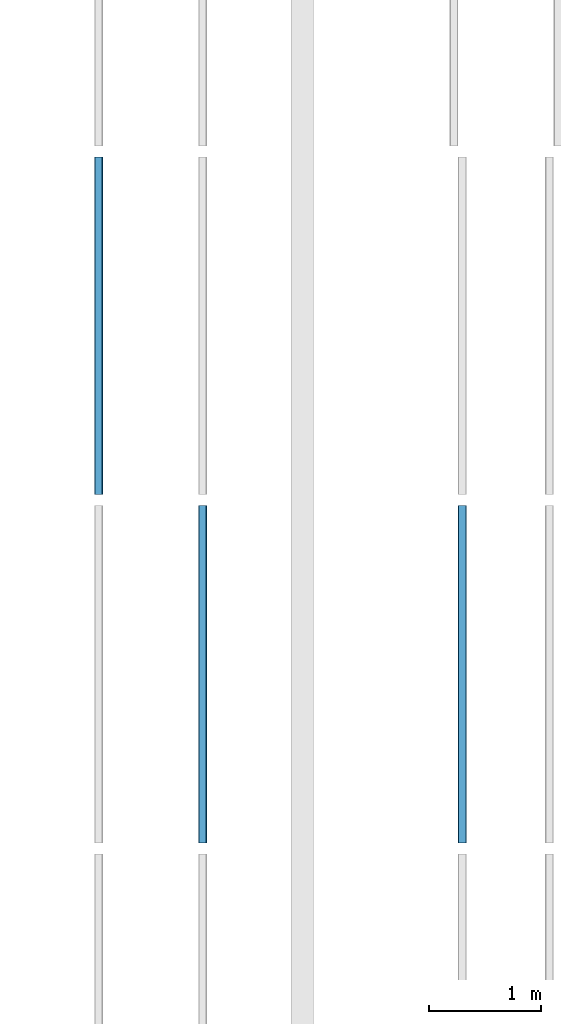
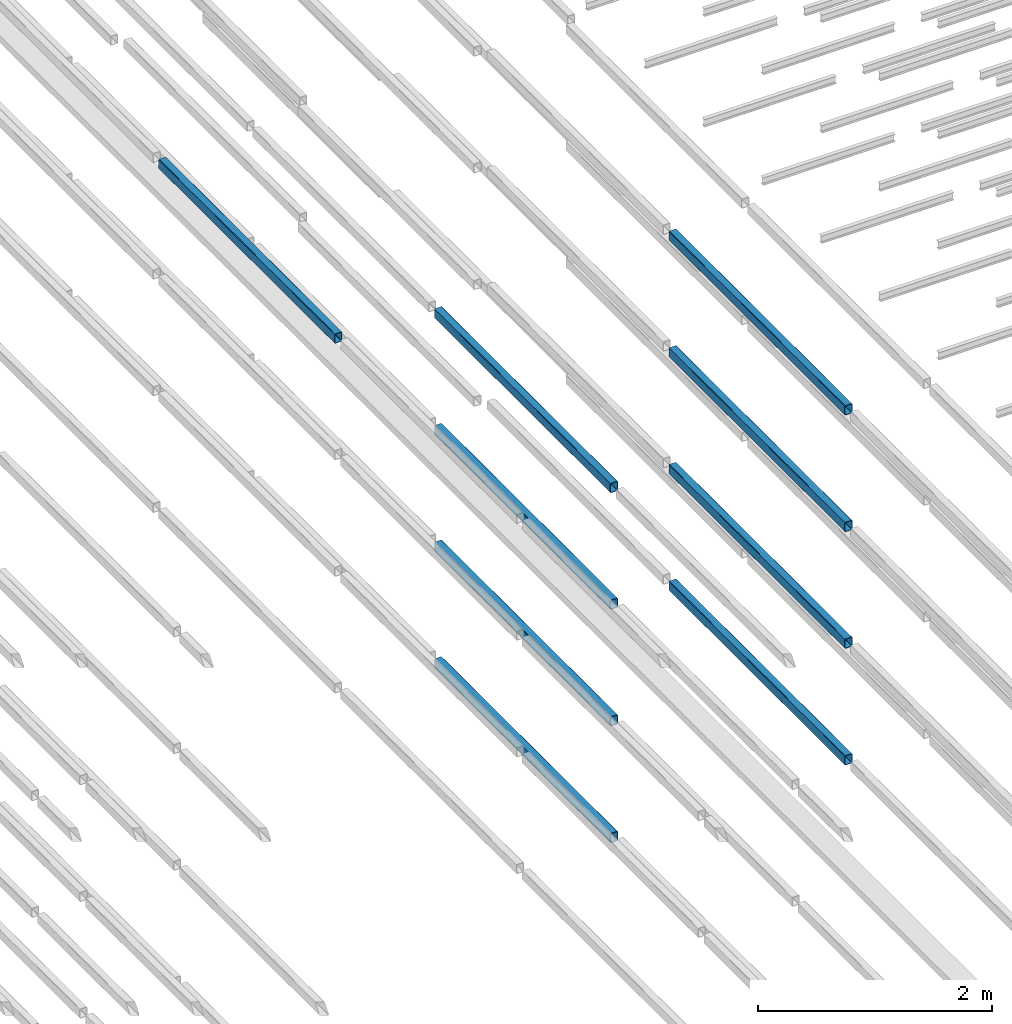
# One storey, part 88 of 290: 9 beams.
"""IFC2X3 building model written with IfcOpenShell, lengths in metres."""

from ifc_helpers import new_model, entity, si_unit, converted_unit, derived_unit, direction, frame, frame_2d, origin, place, context, subcontext, project, spatial, polyline, circle_curve, parameter, trimmed, segment, composite_curve, outline, extrude, material, type_object, element, save


model = new_model("IFC2X3")

# Units and contexts
model_context = context("Model", 3, precision=1e-05, world=origin(), true_north=direction((6.12303176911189e-17, 1.0)))
body_context = subcontext(model_context, "Body", "Model", "MODEL_VIEW")
ifc_project = project(units=[si_unit("LENGTHUNIT", "METRE"), si_unit("AREAUNIT", "SQUARE_METRE"), si_unit("VOLUMEUNIT", "CUBIC_METRE"), converted_unit("PLANEANGLEUNIT", "DEGREE", entity("IfcRatioMeasure", 0.0174532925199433), si_unit("PLANEANGLEUNIT", "RADIAN"), dimensions=[0, 0, 0, 0, 0, 0, 0]), si_unit("MASSUNIT", "GRAM", prefix="KILO"), derived_unit("MASSDENSITYUNIT", [(si_unit("MASSUNIT", "GRAM", prefix="KILO"), 1), (si_unit("LENGTHUNIT", "METRE"), -3)]), derived_unit("MOMENTOFINERTIAUNIT", [(si_unit("LENGTHUNIT", "METRE"), 4)]), si_unit("TIMEUNIT", "SECOND"), si_unit("FREQUENCYUNIT", "HERTZ"), si_unit("THERMODYNAMICTEMPERATUREUNIT", "DEGREE_CELSIUS"), derived_unit("THERMALTRANSMITTANCEUNIT", [(si_unit("MASSUNIT", "GRAM", prefix="KILO"), 1), (si_unit("THERMODYNAMICTEMPERATUREUNIT", "KELVIN"), -1), (si_unit("TIMEUNIT", "SECOND"), -3)]), derived_unit("VOLUMETRICFLOWRATEUNIT", [(si_unit("LENGTHUNIT", "METRE"), 3), (si_unit("TIMEUNIT", "SECOND"), -1)]), si_unit("ELECTRICCURRENTUNIT", "AMPERE"), si_unit("ELECTRICVOLTAGEUNIT", "VOLT"), si_unit("POWERUNIT", "WATT"), si_unit("FORCEUNIT", "NEWTON", prefix="KILO"), si_unit("ILLUMINANCEUNIT", "LUX"), si_unit("LUMINOUSFLUXUNIT", "LUMEN"), si_unit("LUMINOUSINTENSITYUNIT", "CANDELA"), derived_unit("USERDEFINED", [(si_unit("MASSUNIT", "GRAM", prefix="KILO"), -1), (si_unit("LENGTHUNIT", "METRE"), -2), (si_unit("TIMEUNIT", "SECOND"), 3), (si_unit("LUMINOUSFLUXUNIT", "LUMEN"), 1)]), derived_unit("LINEARVELOCITYUNIT", [(si_unit("LENGTHUNIT", "METRE"), 1), (si_unit("TIMEUNIT", "SECOND"), -1)]), si_unit("PRESSUREUNIT", "PASCAL"), derived_unit("USERDEFINED", [(si_unit("LENGTHUNIT", "METRE"), -2), (si_unit("MASSUNIT", "GRAM", prefix="KILO"), 1), (si_unit("TIMEUNIT", "SECOND"), -2)]), derived_unit("LINEARFORCEUNIT", [(si_unit("MASSUNIT", "GRAM", prefix="KILO"), 1), (si_unit("LENGTHUNIT", "METRE"), 1), (si_unit("TIMEUNIT", "SECOND"), -2), (si_unit("LENGTHUNIT", "METRE"), -1)]), derived_unit("PLANARFORCEUNIT", [(si_unit("MASSUNIT", "GRAM", prefix="KILO"), 1), (si_unit("LENGTHUNIT", "METRE"), 1), (si_unit("TIMEUNIT", "SECOND"), -2), (si_unit("LENGTHUNIT", "METRE"), -2)])], contexts=[model_context])

# Site, building, storey
site_placement = place(None, origin())
site = spatial("IfcSite", under=ifc_project, at=site_placement, Name="Default", CompositionType="ELEMENT")
building_placement = place(site_placement, origin())
building = spatial("IfcBuilding", under=site, at=building_placement, CompositionType="ELEMENT")
storey_placement = place(building_placement, frame((0.0, 0.0, 4.0)))
storey = spatial("IfcBuildingStorey", under=building, at=storey_placement, Name="01_OG", CompositionType="ELEMENT", Elevation=4.0)

# Beams
ifc_material = material(Name="Metall - Baustahl S235 blau")
beam_type = type_object("IfcBeamType", Name="RHS Träger (EN 10219-2):RHS 100 x 75 x 5", PredefinedType="NOTDEFINED")
beam_1_placement = place(storey_placement, frame((-178.465111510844, 39.5480889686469, -1.2), z_axis=(0.0, 0.0, 1.0), x_axis=(0.0, 1.0, 0.0)))
element("IfcBeam", 1, at=beam_1_placement, inside=storey, type_object=beam_type, material=ifc_material, Name="RHS Träger (EN 10219-2):RHS 100 x 75 x 5", ObjectType="RHS Träger (EN 10219-2):RHS 100 x 75 x 5", context=body_context, shape_type="SweptSolid", body=[
    extrude(outline(composite_curve([segment(polyline([(-0.0400000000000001, -0.0374999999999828), (0.0400000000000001, -0.0374999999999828)]), True, "CONTINUOUS"), segment(trimmed(circle_curve(frame_2d((0.0400000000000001, -0.0274999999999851), x_axis=(0.0, 1.0)), 0.01), [parameter(180.0)], [parameter(270.0)], True, "PARAMETER"), True, "CONTINUOUS"), segment(polyline([(0.05, -0.0274999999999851), (0.05, 0.0274999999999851)]), True, "CONTINUOUS"), segment(trimmed(circle_curve(frame_2d((0.0400000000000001, 0.0274999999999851), x_axis=(0.0, 1.0)), 0.01), [parameter(270.0)], [parameter(4.07110999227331e-13)], True, "PARAMETER"), True, "CONTINUOUS"), segment(polyline([(0.0400000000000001, 0.0375000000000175), (-0.0400000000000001, 0.0375000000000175)]), True, "CONTINUOUS"), segment(trimmed(circle_curve(frame_2d((-0.0400000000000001, 0.0274999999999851), x_axis=(0.0, 1.0)), 0.01), [parameter(360.0)], [parameter(90.0000000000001)], True, "PARAMETER"), True, "CONTINUOUS"), segment(polyline([(-0.05, 0.0274999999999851), (-0.05, -0.0274999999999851)]), True, "CONTINUOUS"), segment(trimmed(circle_curve(frame_2d((-0.0400000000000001, -0.0274999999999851), x_axis=(0.0, 1.0)), 0.01), [parameter(90.0000000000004)], [parameter(180.0)], True, "PARAMETER"), True, "CONTINUOUS")], self_intersect=False), holes=[composite_curve([segment(trimmed(circle_curve(frame_2d((-0.0400000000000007, 0.0274999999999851), x_axis=(0.0, 1.0)), 0.005), [parameter(360.0)], [parameter(89.9999999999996)], True, "PARAMETER"), False, "CONTINUOUS"), segment(polyline([(-0.0400000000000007, 0.0325000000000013), (0.039999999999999, 0.0325000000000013)]), True, "CONTINUOUS"), segment(trimmed(circle_curve(frame_2d((0.039999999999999, 0.0274999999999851), x_axis=(0.0, 1.0)), 0.005), [parameter(270.0)], [parameter(0.0)], True, "PARAMETER"), False, "CONTINUOUS"), segment(polyline([(0.044999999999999, 0.0274999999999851), (0.044999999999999, -0.0274999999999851)]), True, "CONTINUOUS"), segment(trimmed(circle_curve(frame_2d((0.039999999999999, -0.0274999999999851), x_axis=(0.0, 1.0)), 0.005), [parameter(180.0)], [parameter(269.999999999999)], True, "PARAMETER"), False, "CONTINUOUS"), segment(polyline([(0.039999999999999, -0.0325000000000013), (-0.0400000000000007, -0.0325000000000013)]), True, "CONTINUOUS"), segment(trimmed(circle_curve(frame_2d((-0.0400000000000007, -0.0274999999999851), x_axis=(0.0, 1.0)), 0.005), [parameter(90.0000000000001)], [parameter(180.0)], True, "PARAMETER"), False, "CONTINUOUS"), segment(polyline([(-0.0450000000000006, -0.0274999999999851), (-0.0450000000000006, 0.0274999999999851)]), True, "CONTINUOUS")], self_intersect=False)]), frame((9.99999999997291e-05, -0.0375000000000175, -0.0500000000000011), z_axis=(1.0, 0.0, 0.0), x_axis=(0.0, 0.0, -1.0)), (0.0, 0.0, 1.0), 2.99979999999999),
])
beam_2_placement = place(storey_placement, frame((-178.465111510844, 39.5480889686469, 0.0150000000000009), z_axis=(0.0, 0.0, 1.0), x_axis=(0.0, 1.0, 0.0)))
element("IfcBeam", 2, at=beam_2_placement, inside=storey, type_object=beam_type, material=ifc_material, Name="RHS Träger (EN 10219-2):RHS 100 x 75 x 5", ObjectType="RHS Träger (EN 10219-2):RHS 100 x 75 x 5", context=body_context, shape_type="SweptSolid", body=[
    extrude(outline(composite_curve([segment(polyline([(-0.0400000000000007, -0.0374999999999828), (0.0399999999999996, -0.0374999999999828)]), True, "CONTINUOUS"), segment(trimmed(circle_curve(frame_2d((0.0399999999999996, -0.0274999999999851), x_axis=(0.0, 1.0)), 0.01), [parameter(180.0)], [parameter(270.0)], True, "PARAMETER"), True, "CONTINUOUS"), segment(polyline([(0.0499999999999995, -0.0274999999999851), (0.0499999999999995, 0.0274999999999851)]), True, "CONTINUOUS"), segment(trimmed(circle_curve(frame_2d((0.0399999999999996, 0.0274999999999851), x_axis=(0.0, 1.0)), 0.01), [parameter(270.0)], [parameter(4.07110999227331e-13)], True, "PARAMETER"), True, "CONTINUOUS"), segment(polyline([(0.0399999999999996, 0.0375000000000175), (-0.0400000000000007, 0.0375000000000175)]), True, "CONTINUOUS"), segment(trimmed(circle_curve(frame_2d((-0.0400000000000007, 0.0274999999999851), x_axis=(0.0, 1.0)), 0.01), [parameter(360.0)], [parameter(90.0000000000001)], True, "PARAMETER"), True, "CONTINUOUS"), segment(polyline([(-0.0500000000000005, 0.0274999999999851), (-0.0500000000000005, -0.0274999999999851)]), True, "CONTINUOUS"), segment(trimmed(circle_curve(frame_2d((-0.0400000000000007, -0.0274999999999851), x_axis=(0.0, 1.0)), 0.01), [parameter(90.0000000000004)], [parameter(180.0)], True, "PARAMETER"), True, "CONTINUOUS")], self_intersect=False), holes=[composite_curve([segment(trimmed(circle_curve(frame_2d((-0.0400000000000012, 0.0274999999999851), x_axis=(0.0, 1.0)), 0.005), [parameter(360.0)], [parameter(89.9999999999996)], True, "PARAMETER"), False, "CONTINUOUS"), segment(polyline([(-0.0400000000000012, 0.0325000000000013), (0.0399999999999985, 0.0325000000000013)]), True, "CONTINUOUS"), segment(trimmed(circle_curve(frame_2d((0.0399999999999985, 0.0274999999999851), x_axis=(0.0, 1.0)), 0.005), [parameter(270.0)], [parameter(0.0)], True, "PARAMETER"), False, "CONTINUOUS"), segment(polyline([(0.0449999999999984, 0.0274999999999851), (0.0449999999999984, -0.0274999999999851)]), True, "CONTINUOUS"), segment(trimmed(circle_curve(frame_2d((0.0399999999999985, -0.0274999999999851), x_axis=(0.0, 1.0)), 0.005), [parameter(180.0)], [parameter(269.999999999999)], True, "PARAMETER"), False, "CONTINUOUS"), segment(polyline([(0.0399999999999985, -0.0325000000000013), (-0.0400000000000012, -0.0325000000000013)]), True, "CONTINUOUS"), segment(trimmed(circle_curve(frame_2d((-0.0400000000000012, -0.0274999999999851), x_axis=(0.0, 1.0)), 0.005), [parameter(90.0000000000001)], [parameter(180.0)], True, "PARAMETER"), False, "CONTINUOUS"), segment(polyline([(-0.0450000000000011, -0.0274999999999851), (-0.0450000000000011, 0.0274999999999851)]), True, "CONTINUOUS")], self_intersect=False)]), frame((9.99999999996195e-05, -0.0375000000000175, -0.0500000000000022), z_axis=(1.0, 0.0, 0.0), x_axis=(0.0, 0.0, -1.0)), (0.0, 0.0, 1.0), 2.99979999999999),
])
beam_3_placement = place(storey_placement, frame((-178.465111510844, 39.5480889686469, 1.23), z_axis=(0.0, 0.0, 1.0), x_axis=(0.0, 1.0, 0.0)))
element("IfcBeam", 3, at=beam_3_placement, inside=storey, type_object=beam_type, material=ifc_material, Name="RHS Träger (EN 10219-2):RHS 100 x 75 x 5", ObjectType="RHS Träger (EN 10219-2):RHS 100 x 75 x 5", context=body_context, shape_type="SweptSolid", body=[
    extrude(outline(composite_curve([segment(polyline([(-0.0399999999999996, -0.0374999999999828), (0.0399999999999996, -0.0374999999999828)]), True, "CONTINUOUS"), segment(trimmed(circle_curve(frame_2d((0.0399999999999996, -0.0274999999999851), x_axis=(0.0, 1.0)), 0.01), [parameter(180.0)], [parameter(270.0)], True, "PARAMETER"), True, "CONTINUOUS"), segment(polyline([(0.0500000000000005, -0.0274999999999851), (0.0500000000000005, 0.0274999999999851)]), True, "CONTINUOUS"), segment(trimmed(circle_curve(frame_2d((0.0399999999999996, 0.0274999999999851), x_axis=(0.0, 1.0)), 0.01), [parameter(270.0)], [parameter(4.07110999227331e-13)], True, "PARAMETER"), True, "CONTINUOUS"), segment(polyline([(0.0399999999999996, 0.0375000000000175), (-0.0399999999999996, 0.0375000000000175)]), True, "CONTINUOUS"), segment(trimmed(circle_curve(frame_2d((-0.0399999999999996, 0.0274999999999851), x_axis=(0.0, 1.0)), 0.01), [parameter(360.0)], [parameter(90.0000000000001)], True, "PARAMETER"), True, "CONTINUOUS"), segment(polyline([(-0.0499999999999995, 0.0274999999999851), (-0.0499999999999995, -0.0274999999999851)]), True, "CONTINUOUS"), segment(trimmed(circle_curve(frame_2d((-0.0399999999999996, -0.0274999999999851), x_axis=(0.0, 1.0)), 0.01), [parameter(90.0000000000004)], [parameter(180.0)], True, "PARAMETER"), True, "CONTINUOUS")], self_intersect=False), holes=[composite_curve([segment(trimmed(circle_curve(frame_2d((-0.0400000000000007, 0.0274999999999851), x_axis=(0.0, 1.0)), 0.005), [parameter(360.0)], [parameter(89.9999999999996)], True, "PARAMETER"), False, "CONTINUOUS"), segment(polyline([(-0.0400000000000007, 0.0325000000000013), (0.0399999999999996, 0.0325000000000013)]), True, "CONTINUOUS"), segment(trimmed(circle_curve(frame_2d((0.0399999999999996, 0.0274999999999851), x_axis=(0.0, 1.0)), 0.005), [parameter(270.0)], [parameter(0.0)], True, "PARAMETER"), False, "CONTINUOUS"), segment(polyline([(0.0449999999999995, 0.0274999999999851), (0.0449999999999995, -0.0274999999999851)]), True, "CONTINUOUS"), segment(trimmed(circle_curve(frame_2d((0.0399999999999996, -0.0274999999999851), x_axis=(0.0, 1.0)), 0.005), [parameter(180.0)], [parameter(269.999999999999)], True, "PARAMETER"), False, "CONTINUOUS"), segment(polyline([(0.0399999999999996, -0.0325000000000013), (-0.0400000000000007, -0.0325000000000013)]), True, "CONTINUOUS"), segment(trimmed(circle_curve(frame_2d((-0.0400000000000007, -0.0274999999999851), x_axis=(0.0, 1.0)), 0.005), [parameter(90.0000000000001)], [parameter(180.0)], True, "PARAMETER"), False, "CONTINUOUS"), segment(polyline([(-0.0450000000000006, -0.0274999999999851), (-0.0450000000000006, 0.0274999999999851)]), True, "CONTINUOUS")], self_intersect=False)]), frame((9.99999999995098e-05, -0.0375000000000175, -0.0500000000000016), z_axis=(1.0, 0.0, 0.0), x_axis=(0.0, 0.0, -1.0)), (0.0, 0.0, 1.0), 2.99979999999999),
])
beam_4_placement = place(storey_placement, frame((-178.465111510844, 39.5480889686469, 2.445), z_axis=(0.0, 0.0, 1.0), x_axis=(0.0, 1.0, 0.0)))
element("IfcBeam", 4, at=beam_4_placement, inside=storey, type_object=beam_type, material=ifc_material, Name="RHS Träger (EN 10219-2):RHS 100 x 75 x 5", ObjectType="RHS Träger (EN 10219-2):RHS 100 x 75 x 5", context=body_context, shape_type="SweptSolid", body=[
    extrude(outline(composite_curve([segment(polyline([(-0.0399999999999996, -0.0374999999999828), (0.0399999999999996, -0.0374999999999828)]), True, "CONTINUOUS"), segment(trimmed(circle_curve(frame_2d((0.0399999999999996, -0.0274999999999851), x_axis=(0.0, 1.0)), 0.01), [parameter(180.0)], [parameter(270.0)], True, "PARAMETER"), True, "CONTINUOUS"), segment(polyline([(0.0500000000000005, -0.0274999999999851), (0.0500000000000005, 0.0274999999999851)]), True, "CONTINUOUS"), segment(trimmed(circle_curve(frame_2d((0.0399999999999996, 0.0274999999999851), x_axis=(0.0, 1.0)), 0.01), [parameter(270.0)], [parameter(4.07110999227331e-13)], True, "PARAMETER"), True, "CONTINUOUS"), segment(polyline([(0.0399999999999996, 0.0375000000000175), (-0.0399999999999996, 0.0375000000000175)]), True, "CONTINUOUS"), segment(trimmed(circle_curve(frame_2d((-0.0399999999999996, 0.0274999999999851), x_axis=(0.0, 1.0)), 0.01), [parameter(360.0)], [parameter(90.0000000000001)], True, "PARAMETER"), True, "CONTINUOUS"), segment(polyline([(-0.0499999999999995, 0.0274999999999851), (-0.0499999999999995, -0.0274999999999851)]), True, "CONTINUOUS"), segment(trimmed(circle_curve(frame_2d((-0.0399999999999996, -0.0274999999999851), x_axis=(0.0, 1.0)), 0.01), [parameter(90.0000000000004)], [parameter(180.0)], True, "PARAMETER"), True, "CONTINUOUS")], self_intersect=False), holes=[composite_curve([segment(trimmed(circle_curve(frame_2d((-0.0400000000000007, 0.0274999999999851), x_axis=(0.0, 1.0)), 0.005), [parameter(360.0)], [parameter(89.9999999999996)], True, "PARAMETER"), False, "CONTINUOUS"), segment(polyline([(-0.0400000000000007, 0.0325000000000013), (0.0399999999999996, 0.0325000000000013)]), True, "CONTINUOUS"), segment(trimmed(circle_curve(frame_2d((0.0399999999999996, 0.0274999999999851), x_axis=(0.0, 1.0)), 0.005), [parameter(270.0)], [parameter(0.0)], True, "PARAMETER"), False, "CONTINUOUS"), segment(polyline([(0.0449999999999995, 0.0274999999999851), (0.0449999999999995, -0.0274999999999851)]), True, "CONTINUOUS"), segment(trimmed(circle_curve(frame_2d((0.0399999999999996, -0.0274999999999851), x_axis=(0.0, 1.0)), 0.005), [parameter(180.0)], [parameter(269.999999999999)], True, "PARAMETER"), False, "CONTINUOUS"), segment(polyline([(0.0399999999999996, -0.0325000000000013), (-0.0400000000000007, -0.0325000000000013)]), True, "CONTINUOUS"), segment(trimmed(circle_curve(frame_2d((-0.0400000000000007, -0.0274999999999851), x_axis=(0.0, 1.0)), 0.005), [parameter(90.0000000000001)], [parameter(180.0)], True, "PARAMETER"), False, "CONTINUOUS"), segment(polyline([(-0.0450000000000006, -0.0274999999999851), (-0.0450000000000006, 0.0274999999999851)]), True, "CONTINUOUS")], self_intersect=False)]), frame((9.99999999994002e-05, -0.0375000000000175, -0.0500000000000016), z_axis=(1.0, 0.0, 0.0), x_axis=(0.0, 0.0, -1.0)), (0.0, 0.0, 1.0), 2.99979999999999),
])
beam_5_placement = place(storey_placement, frame((-179.315111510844, 42.6480889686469, 2.445), z_axis=(0.0, 0.0, 1.0), x_axis=(0.0, 1.0, 0.0)))
element("IfcBeam", 5, at=beam_5_placement, inside=storey, type_object=beam_type, material=ifc_material, Name="RHS Träger (EN 10219-2):RHS 100 x 75 x 5", ObjectType="RHS Träger (EN 10219-2):RHS 100 x 75 x 5", context=body_context, shape_type="SweptSolid", body=[
    extrude(outline(composite_curve([segment(trimmed(circle_curve(frame_2d((-0.0274999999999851, -0.0399999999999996), x_axis=(1.0, 0.0)), 0.01), [parameter(180.0)], [parameter(270.0)], True, "PARAMETER"), True, "CONTINUOUS"), segment(polyline([(-0.0274999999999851, -0.0499999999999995), (0.0274999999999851, -0.0499999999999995)]), True, "CONTINUOUS"), segment(trimmed(circle_curve(frame_2d((0.0274999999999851, -0.0399999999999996), x_axis=(1.0, 0.0)), 0.01), [parameter(270.0)], [parameter(5.08888749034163e-14)], True, "PARAMETER"), True, "CONTINUOUS"), segment(polyline([(0.0375000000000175, -0.0399999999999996), (0.0375000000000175, 0.0399999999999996)]), True, "CONTINUOUS"), segment(trimmed(circle_curve(frame_2d((0.0274999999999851, 0.0399999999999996), x_axis=(1.0, 0.0)), 0.01), [parameter(360.0)], [parameter(89.9999999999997)], True, "PARAMETER"), True, "CONTINUOUS"), segment(polyline([(0.0274999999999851, 0.0500000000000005), (-0.0274999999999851, 0.0500000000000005)]), True, "CONTINUOUS"), segment(trimmed(circle_curve(frame_2d((-0.0274999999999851, 0.0399999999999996), x_axis=(1.0, 0.0)), 0.01), [parameter(90.0000000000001)], [parameter(180.0)], True, "PARAMETER"), True, "CONTINUOUS"), segment(polyline([(-0.0374999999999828, 0.0399999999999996), (-0.0374999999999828, -0.0399999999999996)]), True, "CONTINUOUS")], self_intersect=False), holes=[composite_curve([segment(polyline([(0.0274999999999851, -0.0450000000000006), (-0.0274999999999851, -0.0450000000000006)]), True, "CONTINUOUS"), segment(trimmed(circle_curve(frame_2d((-0.0274999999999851, -0.0400000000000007), x_axis=(1.0, 0.0)), 0.005), [parameter(180.0)], [parameter(270.0)], True, "PARAMETER"), False, "CONTINUOUS"), segment(polyline([(-0.0325000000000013, -0.0400000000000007), (-0.0325000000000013, 0.0399999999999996)]), True, "CONTINUOUS"), segment(trimmed(circle_curve(frame_2d((-0.0274999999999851, 0.0399999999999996), x_axis=(1.0, 0.0)), 0.005), [parameter(90.0000000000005)], [parameter(180.0)], True, "PARAMETER"), False, "CONTINUOUS"), segment(polyline([(-0.0274999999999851, 0.0449999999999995), (0.0274999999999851, 0.0449999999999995)]), True, "CONTINUOUS"), segment(trimmed(circle_curve(frame_2d((0.0274999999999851, 0.0399999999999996), x_axis=(1.0, 0.0)), 0.005), [parameter(0.0)], [parameter(90.0000000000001)], True, "PARAMETER"), False, "CONTINUOUS"), segment(polyline([(0.0325000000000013, 0.0399999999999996), (0.0325000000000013, -0.0400000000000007)]), True, "CONTINUOUS"), segment(trimmed(circle_curve(frame_2d((0.0274999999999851, -0.0400000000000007), x_axis=(1.0, 0.0)), 0.005), [parameter(270.0)], [parameter(4.07110999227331e-13)], True, "PARAMETER"), False, "CONTINUOUS")], self_intersect=False)]), frame((0.000100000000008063, 0.0375000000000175, -0.0500000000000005), z_axis=(1.0, 0.0, 0.0), x_axis=(0.0, -1.0, 0.0)), (0.0, 0.0, 1.0), 2.99979999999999),
])
beam_6_placement = place(storey_placement, frame((-176.155111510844, 39.5480889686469, -1.2), z_axis=(0.0, 0.0, 1.0), x_axis=(0.0, 1.0, 0.0)))
element("IfcBeam", 6, at=beam_6_placement, inside=storey, type_object=beam_type, material=ifc_material, Name="RHS Träger (EN 10219-2):RHS 100 x 75 x 5", ObjectType="RHS Träger (EN 10219-2):RHS 100 x 75 x 5", context=body_context, shape_type="SweptSolid", body=[
    extrude(outline(composite_curve([segment(polyline([(-0.0400000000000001, -0.0374999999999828), (0.0400000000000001, -0.0374999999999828)]), True, "CONTINUOUS"), segment(trimmed(circle_curve(frame_2d((0.0400000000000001, -0.0274999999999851), x_axis=(0.0, 1.0)), 0.01), [parameter(180.0)], [parameter(270.0)], True, "PARAMETER"), True, "CONTINUOUS"), segment(polyline([(0.05, -0.0274999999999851), (0.05, 0.0274999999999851)]), True, "CONTINUOUS"), segment(trimmed(circle_curve(frame_2d((0.0400000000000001, 0.0274999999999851), x_axis=(0.0, 1.0)), 0.01), [parameter(270.0)], [parameter(4.07110999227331e-13)], True, "PARAMETER"), True, "CONTINUOUS"), segment(polyline([(0.0400000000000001, 0.0375000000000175), (-0.0400000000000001, 0.0375000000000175)]), True, "CONTINUOUS"), segment(trimmed(circle_curve(frame_2d((-0.0400000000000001, 0.0274999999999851), x_axis=(0.0, 1.0)), 0.01), [parameter(360.0)], [parameter(90.0000000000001)], True, "PARAMETER"), True, "CONTINUOUS"), segment(polyline([(-0.05, 0.0274999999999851), (-0.05, -0.0274999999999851)]), True, "CONTINUOUS"), segment(trimmed(circle_curve(frame_2d((-0.0400000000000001, -0.0274999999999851), x_axis=(0.0, 1.0)), 0.01), [parameter(90.0000000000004)], [parameter(180.0)], True, "PARAMETER"), True, "CONTINUOUS")], self_intersect=False), holes=[composite_curve([segment(trimmed(circle_curve(frame_2d((-0.0400000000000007, 0.0274999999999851), x_axis=(0.0, 1.0)), 0.005), [parameter(360.0)], [parameter(89.9999999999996)], True, "PARAMETER"), False, "CONTINUOUS"), segment(polyline([(-0.0400000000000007, 0.0325000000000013), (0.039999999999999, 0.0325000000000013)]), True, "CONTINUOUS"), segment(trimmed(circle_curve(frame_2d((0.039999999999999, 0.0274999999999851), x_axis=(0.0, 1.0)), 0.005), [parameter(270.0)], [parameter(0.0)], True, "PARAMETER"), False, "CONTINUOUS"), segment(polyline([(0.044999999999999, 0.0274999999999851), (0.044999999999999, -0.0274999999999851)]), True, "CONTINUOUS"), segment(trimmed(circle_curve(frame_2d((0.039999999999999, -0.0274999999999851), x_axis=(0.0, 1.0)), 0.005), [parameter(180.0)], [parameter(269.999999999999)], True, "PARAMETER"), False, "CONTINUOUS"), segment(polyline([(0.039999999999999, -0.0325000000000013), (-0.0400000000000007, -0.0325000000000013)]), True, "CONTINUOUS"), segment(trimmed(circle_curve(frame_2d((-0.0400000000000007, -0.0274999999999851), x_axis=(0.0, 1.0)), 0.005), [parameter(90.0000000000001)], [parameter(180.0)], True, "PARAMETER"), False, "CONTINUOUS"), segment(polyline([(-0.0450000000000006, -0.0274999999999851), (-0.0450000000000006, 0.0274999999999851)]), True, "CONTINUOUS")], self_intersect=False)]), frame((9.99999999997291e-05, -0.0375000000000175, -0.0500000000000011), z_axis=(1.0, 0.0, 0.0), x_axis=(0.0, 0.0, -1.0)), (0.0, 0.0, 1.0), 2.99979999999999),
])
beam_7_placement = place(storey_placement, frame((-176.155111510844, 39.5480889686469, 0.0150000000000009), z_axis=(0.0, 0.0, 1.0), x_axis=(0.0, 1.0, 0.0)))
element("IfcBeam", 7, at=beam_7_placement, inside=storey, type_object=beam_type, material=ifc_material, Name="RHS Träger (EN 10219-2):RHS 100 x 75 x 5", ObjectType="RHS Träger (EN 10219-2):RHS 100 x 75 x 5", context=body_context, shape_type="SweptSolid", body=[
    extrude(outline(composite_curve([segment(polyline([(-0.0400000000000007, -0.0374999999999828), (0.0399999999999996, -0.0374999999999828)]), True, "CONTINUOUS"), segment(trimmed(circle_curve(frame_2d((0.0399999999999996, -0.0274999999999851), x_axis=(0.0, 1.0)), 0.01), [parameter(180.0)], [parameter(270.0)], True, "PARAMETER"), True, "CONTINUOUS"), segment(polyline([(0.0499999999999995, -0.0274999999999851), (0.0499999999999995, 0.0274999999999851)]), True, "CONTINUOUS"), segment(trimmed(circle_curve(frame_2d((0.0399999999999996, 0.0274999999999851), x_axis=(0.0, 1.0)), 0.01), [parameter(270.0)], [parameter(4.07110999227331e-13)], True, "PARAMETER"), True, "CONTINUOUS"), segment(polyline([(0.0399999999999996, 0.0375000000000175), (-0.0400000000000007, 0.0375000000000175)]), True, "CONTINUOUS"), segment(trimmed(circle_curve(frame_2d((-0.0400000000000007, 0.0274999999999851), x_axis=(0.0, 1.0)), 0.01), [parameter(360.0)], [parameter(90.0000000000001)], True, "PARAMETER"), True, "CONTINUOUS"), segment(polyline([(-0.0500000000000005, 0.0274999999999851), (-0.0500000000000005, -0.0274999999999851)]), True, "CONTINUOUS"), segment(trimmed(circle_curve(frame_2d((-0.0400000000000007, -0.0274999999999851), x_axis=(0.0, 1.0)), 0.01), [parameter(90.0000000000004)], [parameter(180.0)], True, "PARAMETER"), True, "CONTINUOUS")], self_intersect=False), holes=[composite_curve([segment(trimmed(circle_curve(frame_2d((-0.0400000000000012, 0.0274999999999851), x_axis=(0.0, 1.0)), 0.005), [parameter(360.0)], [parameter(89.9999999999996)], True, "PARAMETER"), False, "CONTINUOUS"), segment(polyline([(-0.0400000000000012, 0.0325000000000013), (0.0399999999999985, 0.0325000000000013)]), True, "CONTINUOUS"), segment(trimmed(circle_curve(frame_2d((0.0399999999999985, 0.0274999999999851), x_axis=(0.0, 1.0)), 0.005), [parameter(270.0)], [parameter(0.0)], True, "PARAMETER"), False, "CONTINUOUS"), segment(polyline([(0.0449999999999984, 0.0274999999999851), (0.0449999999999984, -0.0274999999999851)]), True, "CONTINUOUS"), segment(trimmed(circle_curve(frame_2d((0.0399999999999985, -0.0274999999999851), x_axis=(0.0, 1.0)), 0.005), [parameter(180.0)], [parameter(269.999999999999)], True, "PARAMETER"), False, "CONTINUOUS"), segment(polyline([(0.0399999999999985, -0.0325000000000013), (-0.0400000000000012, -0.0325000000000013)]), True, "CONTINUOUS"), segment(trimmed(circle_curve(frame_2d((-0.0400000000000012, -0.0274999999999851), x_axis=(0.0, 1.0)), 0.005), [parameter(90.0000000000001)], [parameter(180.0)], True, "PARAMETER"), False, "CONTINUOUS"), segment(polyline([(-0.0450000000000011, -0.0274999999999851), (-0.0450000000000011, 0.0274999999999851)]), True, "CONTINUOUS")], self_intersect=False)]), frame((9.99999999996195e-05, -0.0375000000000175, -0.0500000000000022), z_axis=(1.0, 0.0, 0.0), x_axis=(0.0, 0.0, -1.0)), (0.0, 0.0, 1.0), 2.99979999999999),
])
beam_8_placement = place(storey_placement, frame((-176.155111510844, 39.5480889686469, 1.23), z_axis=(0.0, 0.0, 1.0), x_axis=(0.0, 1.0, 0.0)))
element("IfcBeam", 8, at=beam_8_placement, inside=storey, type_object=beam_type, material=ifc_material, Name="RHS Träger (EN 10219-2):RHS 100 x 75 x 5", ObjectType="RHS Träger (EN 10219-2):RHS 100 x 75 x 5", context=body_context, shape_type="SweptSolid", body=[
    extrude(outline(composite_curve([segment(polyline([(-0.0399999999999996, -0.0374999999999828), (0.0399999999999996, -0.0374999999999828)]), True, "CONTINUOUS"), segment(trimmed(circle_curve(frame_2d((0.0399999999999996, -0.0274999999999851), x_axis=(0.0, 1.0)), 0.01), [parameter(180.0)], [parameter(270.0)], True, "PARAMETER"), True, "CONTINUOUS"), segment(polyline([(0.0500000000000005, -0.0274999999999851), (0.0500000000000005, 0.0274999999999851)]), True, "CONTINUOUS"), segment(trimmed(circle_curve(frame_2d((0.0399999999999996, 0.0274999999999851), x_axis=(0.0, 1.0)), 0.01), [parameter(270.0)], [parameter(4.07110999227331e-13)], True, "PARAMETER"), True, "CONTINUOUS"), segment(polyline([(0.0399999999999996, 0.0375000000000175), (-0.0399999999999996, 0.0375000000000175)]), True, "CONTINUOUS"), segment(trimmed(circle_curve(frame_2d((-0.0399999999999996, 0.0274999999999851), x_axis=(0.0, 1.0)), 0.01), [parameter(360.0)], [parameter(90.0000000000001)], True, "PARAMETER"), True, "CONTINUOUS"), segment(polyline([(-0.0499999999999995, 0.0274999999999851), (-0.0499999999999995, -0.0274999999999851)]), True, "CONTINUOUS"), segment(trimmed(circle_curve(frame_2d((-0.0399999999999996, -0.0274999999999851), x_axis=(0.0, 1.0)), 0.01), [parameter(90.0000000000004)], [parameter(180.0)], True, "PARAMETER"), True, "CONTINUOUS")], self_intersect=False), holes=[composite_curve([segment(trimmed(circle_curve(frame_2d((-0.0400000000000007, 0.0274999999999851), x_axis=(0.0, 1.0)), 0.005), [parameter(360.0)], [parameter(89.9999999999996)], True, "PARAMETER"), False, "CONTINUOUS"), segment(polyline([(-0.0400000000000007, 0.0325000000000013), (0.0399999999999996, 0.0325000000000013)]), True, "CONTINUOUS"), segment(trimmed(circle_curve(frame_2d((0.0399999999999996, 0.0274999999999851), x_axis=(0.0, 1.0)), 0.005), [parameter(270.0)], [parameter(0.0)], True, "PARAMETER"), False, "CONTINUOUS"), segment(polyline([(0.0449999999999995, 0.0274999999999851), (0.0449999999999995, -0.0274999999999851)]), True, "CONTINUOUS"), segment(trimmed(circle_curve(frame_2d((0.0399999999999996, -0.0274999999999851), x_axis=(0.0, 1.0)), 0.005), [parameter(180.0)], [parameter(269.999999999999)], True, "PARAMETER"), False, "CONTINUOUS"), segment(polyline([(0.0399999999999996, -0.0325000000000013), (-0.0400000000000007, -0.0325000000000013)]), True, "CONTINUOUS"), segment(trimmed(circle_curve(frame_2d((-0.0400000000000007, -0.0274999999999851), x_axis=(0.0, 1.0)), 0.005), [parameter(90.0000000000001)], [parameter(180.0)], True, "PARAMETER"), False, "CONTINUOUS"), segment(polyline([(-0.0450000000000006, -0.0274999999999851), (-0.0450000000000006, 0.0274999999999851)]), True, "CONTINUOUS")], self_intersect=False)]), frame((9.99999999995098e-05, -0.0375000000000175, -0.0500000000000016), z_axis=(1.0, 0.0, 0.0), x_axis=(0.0, 0.0, -1.0)), (0.0, 0.0, 1.0), 2.99979999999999),
])
beam_9_placement = place(storey_placement, frame((-176.155111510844, 39.5480889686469, 2.445), z_axis=(0.0, 0.0, 1.0), x_axis=(0.0, 1.0, 0.0)))
element("IfcBeam", 9, at=beam_9_placement, inside=storey, type_object=beam_type, material=ifc_material, Name="RHS Träger (EN 10219-2):RHS 100 x 75 x 5", ObjectType="RHS Träger (EN 10219-2):RHS 100 x 75 x 5", context=body_context, shape_type="SweptSolid", body=[
    extrude(outline(composite_curve([segment(polyline([(-0.0399999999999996, -0.0374999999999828), (0.0399999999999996, -0.0374999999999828)]), True, "CONTINUOUS"), segment(trimmed(circle_curve(frame_2d((0.0399999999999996, -0.0274999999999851), x_axis=(0.0, 1.0)), 0.01), [parameter(180.0)], [parameter(270.0)], True, "PARAMETER"), True, "CONTINUOUS"), segment(polyline([(0.0500000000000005, -0.0274999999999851), (0.0500000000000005, 0.0274999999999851)]), True, "CONTINUOUS"), segment(trimmed(circle_curve(frame_2d((0.0399999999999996, 0.0274999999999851), x_axis=(0.0, 1.0)), 0.01), [parameter(270.0)], [parameter(4.07110999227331e-13)], True, "PARAMETER"), True, "CONTINUOUS"), segment(polyline([(0.0399999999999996, 0.0375000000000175), (-0.0399999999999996, 0.0375000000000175)]), True, "CONTINUOUS"), segment(trimmed(circle_curve(frame_2d((-0.0399999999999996, 0.0274999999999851), x_axis=(0.0, 1.0)), 0.01), [parameter(360.0)], [parameter(90.0000000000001)], True, "PARAMETER"), True, "CONTINUOUS"), segment(polyline([(-0.0499999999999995, 0.0274999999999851), (-0.0499999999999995, -0.0274999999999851)]), True, "CONTINUOUS"), segment(trimmed(circle_curve(frame_2d((-0.0399999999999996, -0.0274999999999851), x_axis=(0.0, 1.0)), 0.01), [parameter(90.0000000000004)], [parameter(180.0)], True, "PARAMETER"), True, "CONTINUOUS")], self_intersect=False), holes=[composite_curve([segment(trimmed(circle_curve(frame_2d((-0.0400000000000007, 0.0274999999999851), x_axis=(0.0, 1.0)), 0.005), [parameter(360.0)], [parameter(89.9999999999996)], True, "PARAMETER"), False, "CONTINUOUS"), segment(polyline([(-0.0400000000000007, 0.0325000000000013), (0.0399999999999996, 0.0325000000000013)]), True, "CONTINUOUS"), segment(trimmed(circle_curve(frame_2d((0.0399999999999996, 0.0274999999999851), x_axis=(0.0, 1.0)), 0.005), [parameter(270.0)], [parameter(0.0)], True, "PARAMETER"), False, "CONTINUOUS"), segment(polyline([(0.0449999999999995, 0.0274999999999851), (0.0449999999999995, -0.0274999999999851)]), True, "CONTINUOUS"), segment(trimmed(circle_curve(frame_2d((0.0399999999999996, -0.0274999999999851), x_axis=(0.0, 1.0)), 0.005), [parameter(180.0)], [parameter(269.999999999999)], True, "PARAMETER"), False, "CONTINUOUS"), segment(polyline([(0.0399999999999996, -0.0325000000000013), (-0.0400000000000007, -0.0325000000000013)]), True, "CONTINUOUS"), segment(trimmed(circle_curve(frame_2d((-0.0400000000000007, -0.0274999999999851), x_axis=(0.0, 1.0)), 0.005), [parameter(90.0000000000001)], [parameter(180.0)], True, "PARAMETER"), False, "CONTINUOUS"), segment(polyline([(-0.0450000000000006, -0.0274999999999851), (-0.0450000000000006, 0.0274999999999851)]), True, "CONTINUOUS")], self_intersect=False)]), frame((9.99999999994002e-05, -0.0375000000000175, -0.0500000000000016), z_axis=(1.0, 0.0, 0.0), x_axis=(0.0, 0.0, -1.0)), (0.0, 0.0, 1.0), 2.99979999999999),
])

save(model, "model.ifc")
